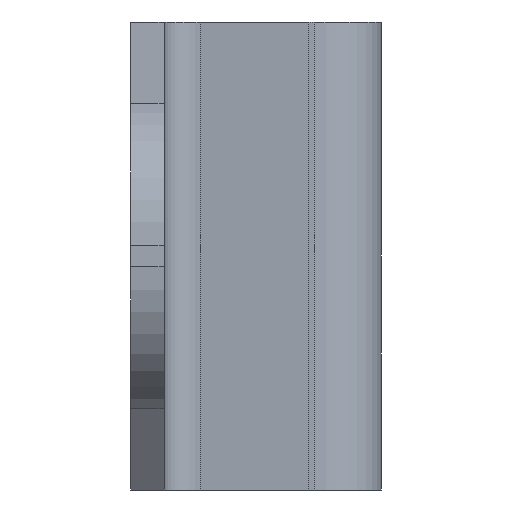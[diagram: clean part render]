
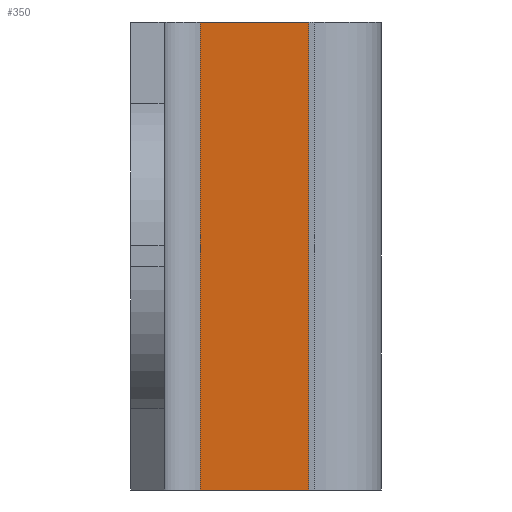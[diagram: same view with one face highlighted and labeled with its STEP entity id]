
A CAD part, left-side view. The second image highlights one B-rep face of the part: STEP entity #350.
In plain terms, the highlighted planar face has unit normal (-0.996, 0.087, 0).
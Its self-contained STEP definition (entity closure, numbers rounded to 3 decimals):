
#21 = VECTOR ( 'NONE', #2064, 1000. ) ;
#142 = ORIENTED_EDGE ( 'NONE', *, *, #1813, .T. ) ;
#174 = CARTESIAN_POINT ( 'NONE',  ( -18.688, 4.413, 7. ) ) ;
#219 = VECTOR ( 'NONE', #1150, 1000. ) ;
#297 = CARTESIAN_POINT ( 'NONE',  ( -18.971, 1.174, 7. ) ) ;
#311 = LINE ( 'NONE', #503, #219 ) ;
#345 = VERTEX_POINT ( 'NONE', #1616 ) ;
#350 = ADVANCED_FACE ( 'NONE', ( #1425 ), #1784, .F. ) ;
#374 = VERTEX_POINT ( 'NONE', #759 ) ;
#433 = VECTOR ( 'NONE', #1774, 1000. ) ;
#503 = CARTESIAN_POINT ( 'NONE',  ( -19.066, 0.087, -7. ) ) ;
#726 = EDGE_CURVE ( 'NONE', #345, #374, #1741, .T. ) ;
#756 = EDGE_CURVE ( 'NONE', #2080, #345, #1233, .T. ) ;
#759 = CARTESIAN_POINT ( 'NONE',  ( -18.971, 1.174, -7. ) ) ;
#884 = ORIENTED_EDGE ( 'NONE', *, *, #756, .F. ) ;
#917 = DIRECTION ( 'NONE',  ( 0.996, -0.087, 0. ) ) ;
#1098 = EDGE_LOOP ( 'NONE', ( #1810, #1468, #884, #142 ) ) ;
#1150 = DIRECTION ( 'NONE',  ( -0.087, -0.996, 0. ) ) ;
#1233 = LINE ( 'NONE', #1595, #21 ) ;
#1425 = FACE_OUTER_BOUND ( 'NONE', #1098, .T. ) ;
#1468 = ORIENTED_EDGE ( 'NONE', *, *, #726, .F. ) ;
#1477 = DIRECTION ( 'NONE',  ( 0., 0., -1. ) ) ;
#1594 = AXIS2_PLACEMENT_3D ( 'NONE', #1753, #917, #1942 ) ;
#1595 = CARTESIAN_POINT ( 'NONE',  ( -19.066, 0.087, 7. ) ) ;
#1616 = CARTESIAN_POINT ( 'NONE',  ( -18.971, 1.174, 7. ) ) ;
#1637 = LINE ( 'NONE', #174, #1761 ) ;
#1696 = CARTESIAN_POINT ( 'NONE',  ( -18.688, 4.413, -7. ) ) ;
#1738 = EDGE_CURVE ( 'NONE', #2104, #374, #311, .T. ) ;
#1741 = LINE ( 'NONE', #297, #433 ) ;
#1753 = CARTESIAN_POINT ( 'NONE',  ( -19.066, 0.087, 7. ) ) ;
#1761 = VECTOR ( 'NONE', #1477, 1000. ) ;
#1774 = DIRECTION ( 'NONE',  ( 0., 0., -1. ) ) ;
#1784 = PLANE ( 'NONE',  #1594 ) ;
#1810 = ORIENTED_EDGE ( 'NONE', *, *, #1738, .T. ) ;
#1813 = EDGE_CURVE ( 'NONE', #2080, #2104, #1637, .T. ) ;
#1942 = DIRECTION ( 'NONE',  ( 0.087, 0.996, 0. ) ) ;
#2064 = DIRECTION ( 'NONE',  ( -0.087, -0.996, 0. ) ) ;
#2069 = CARTESIAN_POINT ( 'NONE',  ( -18.688, 4.413, 7. ) ) ;
#2080 = VERTEX_POINT ( 'NONE', #2069 ) ;
#2104 = VERTEX_POINT ( 'NONE', #1696 ) ;
